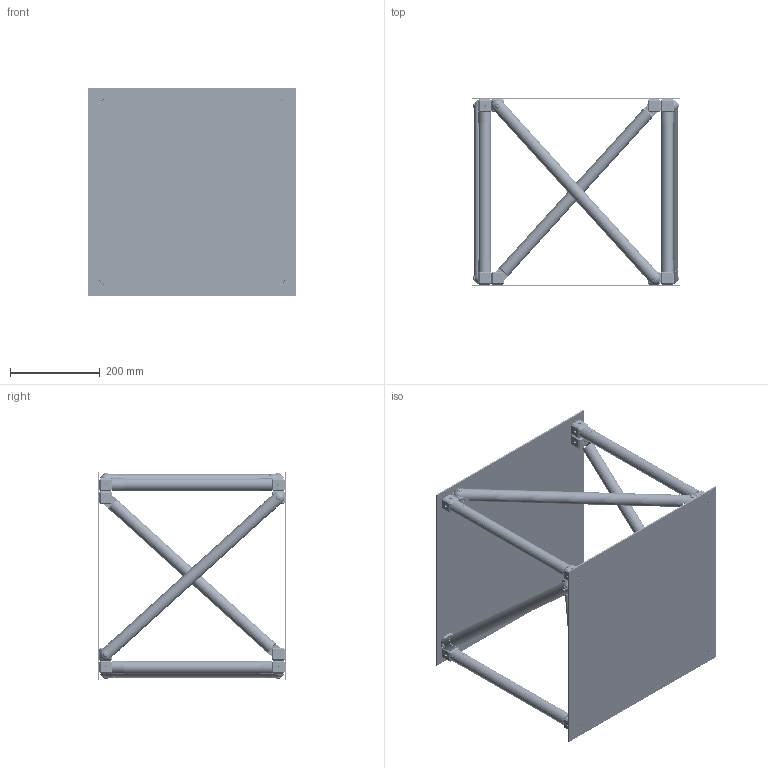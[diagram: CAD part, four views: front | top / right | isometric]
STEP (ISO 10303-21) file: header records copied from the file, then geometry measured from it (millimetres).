
FILE_DESCRIPTION (( 'STEP AP214' ), '1' );
FILE_NAME ('Criss Cross Box Assembly.STEP', '2013-09-19T14:46:28', ( 'ydmin' ), ( 'Microsoft' ), 'SwSTEP 2.0', 'SolidWorks 2013', '' );
FILE_SCHEMA (( 'AUTOMOTIVE_DESIGN' ));
Length unit declared in the file: inch
Products named in the file (13): Top Plate; 91255A542_91255A542; 94105A539_94105A539; Corner Assembly; 92311A546_94105A547; 8.000 Inch Tube; Criss Cross Box Assembly; Bottom Plate; DRP-002-0544-00; 91253A537_91253A537; DRP-002-0513-00; DRP-002-0511-00; 6.000 Inch Tube
Assembly tree (30 placements, depth 3):
  Criss Cross Box Assembly
    Corner Assembly  x4
      DRP-002-0544-00
      DRP-002-0513-00
      94105A539_94105A539
      92311A546_94105A547
      91255A542_91255A542
      6.000 Inch Tube
      8.000 Inch Tube
      DRP-002-0511-00
    Top Plate
    Bottom Plate
    91253A537_91253A537  x8
Bounding box: 463.55 x 419.1 x 463.55 mm (x, y, z)
Volume: 2330081.4 mm3; surface area: 1672832.7 mm2
Topology: 82 solids, 82 shells, 4500 faces, 10280 edges, 5904 vertices
Faces by surface type: cylinder 1936, cone 1376, plane 1004, bspline 112, torus 48, sphere 24
Entity records: 30951 total; most frequent: CARTESIAN_POINT 17444, ORIENTED_EDGE 2524, DIRECTION 2335, EDGE_CURVE 1262, AXIS2_PLACEMENT_3D 897, VERTEX_POINT 736, EDGE_LOOP 594, ADVANCED_FACE 555
